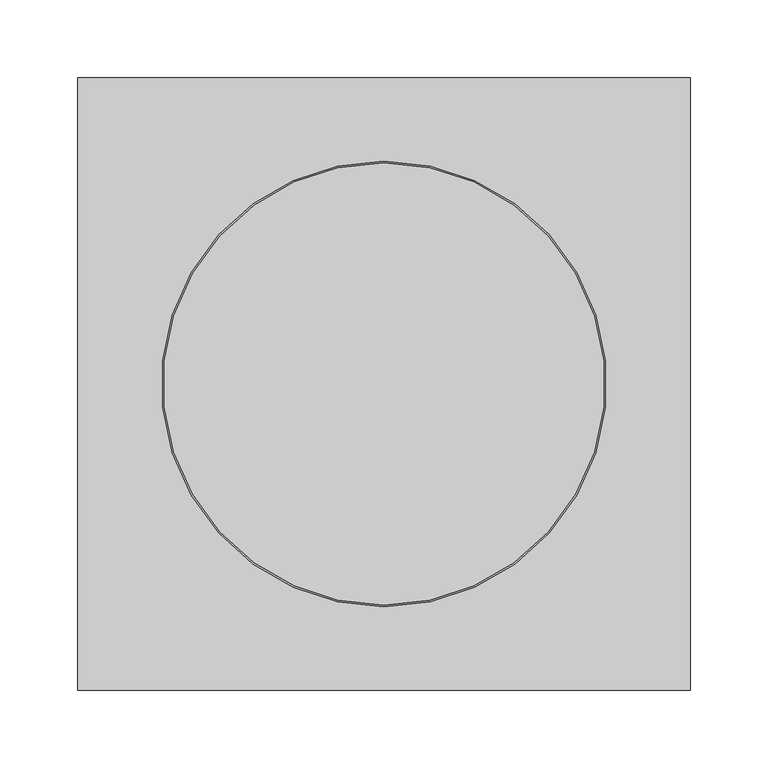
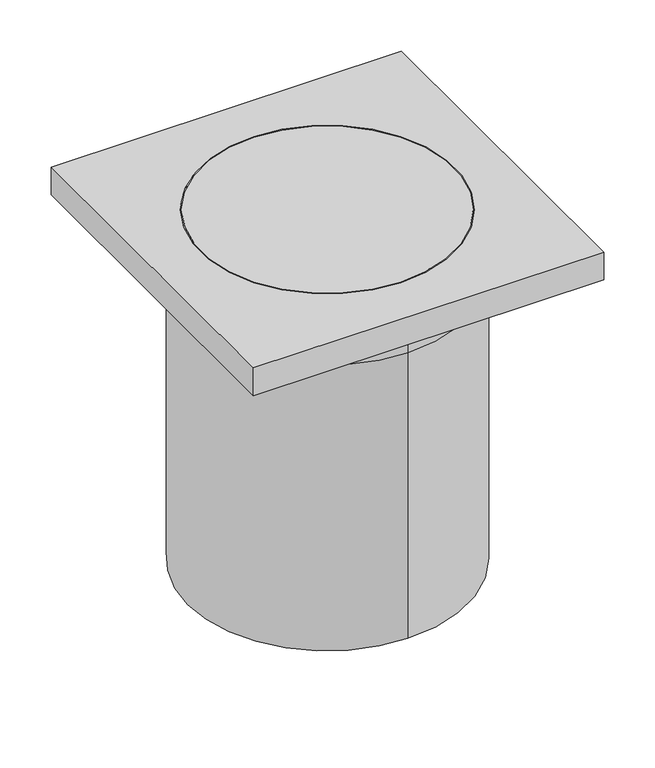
"""IFC4 building model written with IfcOpenShell, lengths in millimetres: valve geometry, Pipelife - Studnia PRO - Teleskop 315 : 1.5t/315/400 A15 z pokrywą z tworzywa."""

from ifc_helpers import new_model, si_unit, point, frame, origin, origin_2d, place, context, project, spatial, polyline, circle_curve, trimmed, segment, composite_curve, outline, extrude, source, transform, mapped, element, save
from ifc_brep_helpers import plane_surface, revolved_surface, advanced_brep


def valve_f968a85a(model_context):
    return source(origin(), model_context, "Body", "SolidModel", [
        advanced_brep(
        [(0.0, 143.5, 206.0), (0.0, -143.5, 206.0), (0.0, 143.5, 216.0), (0.0, -143.5, 216.0), (-197.5, -197.5, 216.0), (197.5, -197.5, 216.0), (197.5, 197.5, 216.0), (-197.5, 197.5, 216.0), (-197.5, -197.5, 183.0), (-197.5, 197.5, 183.0), (197.5, 197.5, 183.0), (197.5, -197.5, 183.0)],
        [
            (0, 1, circle_curve(frame((0.0, 0.0, 206.0), z_axis=(0.0, 0.0, 1.0), x_axis=(0.0, -1.0, 0.0)), 143.5)),
            (1, 0, circle_curve(frame((0.0, 0.0, 206.0), z_axis=(0.0, 0.0, 1.0), x_axis=(0.0, -1.0, 0.0)), 143.5)),
            (0, 2),
            (2, 3, circle_curve(frame((0.0, 0.0, 216.0), z_axis=(0.0, 0.0, 1.0), x_axis=(0.0, -1.0, 0.0)), 143.5)),
            (3, 1),
            (3, 2, circle_curve(frame((0.0, 0.0, 216.0), z_axis=(0.0, 0.0, 1.0), x_axis=(0.0, -1.0, 0.0)), 143.5)),
            (4, 5),
            (5, 6),
            (6, 7),
            (7, 4),
            (8, 9),
            (9, 10),
            (10, 11),
            (11, 8),
            (4, 8),
            (11, 5),
            (10, 6),
            (9, 7),
        ],
        [
            plane_surface(frame((0.0, 0.0, 206.0), z_axis=(0.0, 0.0, 1.0), x_axis=(0.0, -1.0, 0.0))),
            revolved_surface(polyline([(0.0, -143.5, 216.0), (0.0, -143.5, 206.0)]), (0.0, 0.0, 216.0), (0.0, 0.0, 1.0)),
            plane_surface(frame((0.0, 0.0, 216.0), z_axis=(0.0, 0.0, 1.0), x_axis=(0.0, -1.0, 0.0))),
            plane_surface(frame((0.0, 0.0, 183.0), z_axis=(0.0, 0.0, -1.0), x_axis=(0.0, -1.0, 0.0))),
            plane_surface(frame((-197.5, -197.5, 216.0), z_axis=(0.0, -1.0, 0.0), x_axis=(0.0, 0.0, -1.0))),
            plane_surface(frame((197.5, -197.5, 216.0), z_axis=(1.0, 0.0, 0.0), x_axis=(0.0, 0.0, -1.0))),
            plane_surface(frame((197.5, 197.5, 216.0), z_axis=(0.0, 1.0, 0.0), x_axis=(0.0, 0.0, -1.0))),
            plane_surface(frame((-197.5, 197.5, 216.0), z_axis=(-1.0, 0.0, 0.0), x_axis=(0.0, 0.0, -1.0))),
        ],
        [
            (0, [[1, 2]]),
            (1, [[-1, 3, 4, 5]]),
            (1, [[-2, -5, 6, -3]]),
            (2, [[7, 8, 9, 10], [-4, -6]]),
            (3, [[11, 12, 13, 14]]),
            (4, [[-7, 15, -14, 16]]),
            (5, [[-8, -16, -13, 17]]),
            (6, [[-9, -17, -12, 18]]),
            (7, [[-10, -18, -11, -15]]),
        ],
    ),
        extrude(outline(composite_curve([segment(trimmed(circle_curve(origin_2d(), 142.5), [point((0.0, 142.5))], [point((0.0, -142.5))], False, "CARTESIAN"), True, "CONTINUOUS"), segment(trimmed(circle_curve(origin_2d(), 142.5), [point((0.0, -142.5))], [point((0.0, 142.5))], False, "CARTESIAN"), True, "CONTINUOUS")], self_intersect=False)), frame((0.0, 0.0, 206.0), z_axis=(0.0, 0.0, 1.0), x_axis=(1.0, 0.0, 0.0)), (0.0, 0.0, 1.0), 10.0),
        extrude(outline(composite_curve([segment(trimmed(circle_curve(origin_2d(), 157.5), [point((0.0, 157.5))], [point((0.0, -157.5))], False, "CARTESIAN"), True, "CONTINUOUS"), segment(trimmed(circle_curve(origin_2d(), 157.5), [point((0.0, -157.5))], [point((0.0, 157.5))], False, "CARTESIAN"), True, "CONTINUOUS")], self_intersect=False), holes=[composite_curve([segment(trimmed(circle_curve(origin_2d(), 151.0), [point((0.0, 151.0))], [point((0.0, -151.0))], True, "CARTESIAN"), True, "CONTINUOUS"), segment(trimmed(circle_curve(origin_2d(), 151.0), [point((0.0, -151.0))], [point((0.0, 151.0))], True, "CARTESIAN"), True, "CONTINUOUS")], self_intersect=False)]), frame((0.0, 0.0, 141.0), z_axis=(0.0, 0.0, 1.0), x_axis=(1.0, 0.0, 0.0)), (0.0, 0.0, 1.0), 42.0),
        extrude(outline(composite_curve([segment(trimmed(circle_curve(origin_2d(), 157.5), [point((0.0, 157.5))], [point((0.0, -157.5))], False, "CARTESIAN"), True, "CONTINUOUS"), segment(trimmed(circle_curve(origin_2d(), 157.5), [point((0.0, -157.5))], [point((0.0, 157.5))], False, "CARTESIAN"), True, "CONTINUOUS")], self_intersect=False), holes=[composite_curve([segment(trimmed(circle_curve(origin_2d(), 151.0), [point((0.0, 151.0))], [point((0.0, -151.0))], True, "CARTESIAN"), True, "CONTINUOUS"), segment(trimmed(circle_curve(origin_2d(), 151.0), [point((0.0, -151.0))], [point((0.0, 151.0))], True, "CARTESIAN"), True, "CONTINUOUS")], self_intersect=False)]), frame((0.0, 0.0, -200.0), z_axis=(0.0, 0.0, 1.0), x_axis=(1.0, 0.0, 0.0)), (0.0, 0.0, 1.0), 341.0),
    ])


if __name__ == "__main__":
    model = new_model("IFC4")
    model_context = context("Model", 3, world=origin())
    ifc_project = project(units=[si_unit("LENGTHUNIT", "METRE", prefix="MILLI")], contexts=[model_context])
    site = spatial("IfcSite", under=ifc_project)
    building = spatial("IfcBuilding", under=site)
    placement = place(None, origin())
    valve_shape = valve_f968a85a(model_context)
    element("IfcValve", 1, ObjectType="Pipelife - Studnia PRO - Teleskop 315 : 1.5t/315/400 A15 z pokrywą z tworzywa", at=placement, inside=building, context=model_context, shape_type="MappedRepresentation", body=[
        mapped(valve_shape, transform((0.0, 0.0, 0.0), x_axis=(1.0, 0.0, 0.0), y_axis=(0.0, 1.0, 0.0), z_axis=(0.0, 0.0, 1.0))),
    ])
    save(model, "model.ifc")
